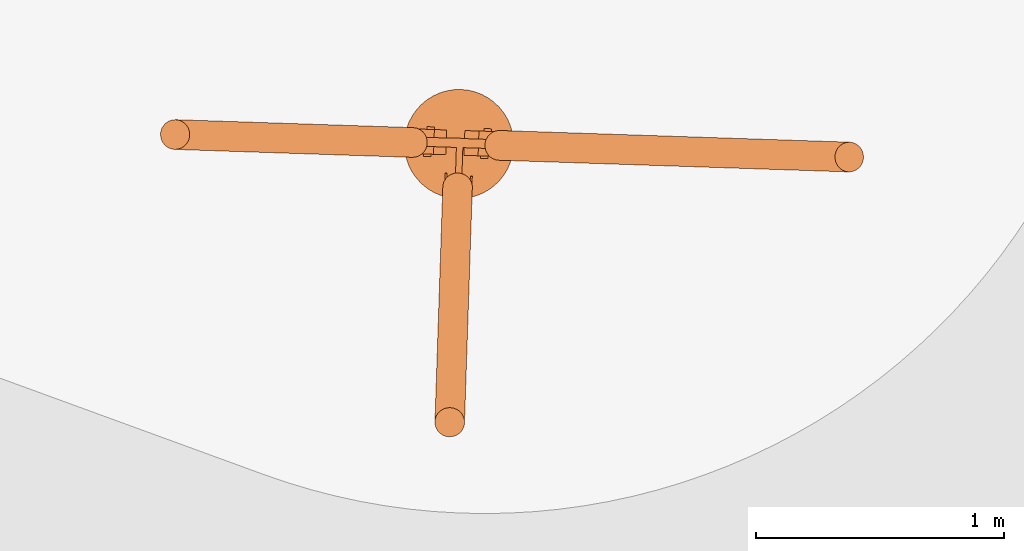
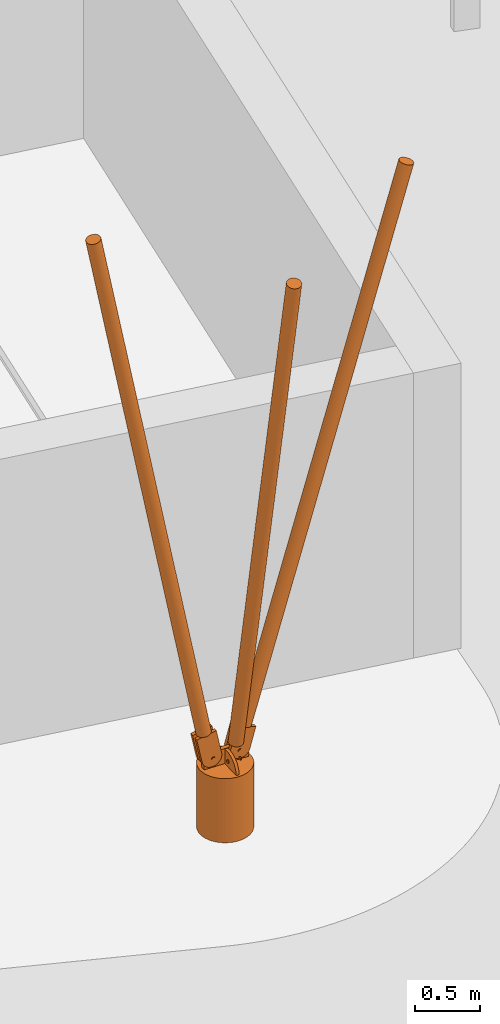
# One storey, part 20 of 21: 1 proxy.
"""IFC2X3 building model written with IfcOpenShell, lengths in millimetres."""

from ifc_helpers import new_model, entity, si_unit, converted_unit, derived_unit, direction, frame, frame_2d, origin, origin_2d_with_axis, place, context, subcontext, project, spatial, polyline, circle_curve, parameter, trimmed, segment, composite_curve, circle, outline, extrude, source, transform, mapped, material, material_list, type_object, type_shapes, element, save


model = new_model("IFC2X3")

# Units and contexts
model_context = context("Model", 3, precision=0.01, world=origin(), true_north=direction((6.12303176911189e-17, 1.0)))
body_context = subcontext(model_context, "Body", "Model", "MODEL_VIEW")
ifc_project = project(units=[si_unit("LENGTHUNIT", "METRE", prefix="MILLI"), si_unit("AREAUNIT", "SQUARE_METRE"), si_unit("VOLUMEUNIT", "CUBIC_METRE"), converted_unit("PLANEANGLEUNIT", "DEGREE", entity("IfcRatioMeasure", 0.0174532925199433), si_unit("PLANEANGLEUNIT", "RADIAN"), dimensions=[0, 0, 0, 0, 0, 0, 0]), si_unit("MASSUNIT", "GRAM", prefix="KILO"), derived_unit("MASSDENSITYUNIT", [(si_unit("MASSUNIT", "GRAM", prefix="KILO"), 1), (si_unit("LENGTHUNIT", "METRE"), -3)]), derived_unit("MOMENTOFINERTIAUNIT", [(si_unit("LENGTHUNIT", "METRE"), 4)]), si_unit("TIMEUNIT", "SECOND"), si_unit("FREQUENCYUNIT", "HERTZ"), si_unit("THERMODYNAMICTEMPERATUREUNIT", "DEGREE_CELSIUS"), derived_unit("THERMALTRANSMITTANCEUNIT", [(si_unit("MASSUNIT", "GRAM", prefix="KILO"), 1), (si_unit("THERMODYNAMICTEMPERATUREUNIT", "KELVIN"), -1), (si_unit("TIMEUNIT", "SECOND"), -3)]), derived_unit("VOLUMETRICFLOWRATEUNIT", [(si_unit("LENGTHUNIT", "METRE"), 3), (si_unit("TIMEUNIT", "SECOND"), -1)]), si_unit("ELECTRICCURRENTUNIT", "AMPERE"), si_unit("ELECTRICVOLTAGEUNIT", "VOLT"), si_unit("POWERUNIT", "WATT"), si_unit("FORCEUNIT", "NEWTON", prefix="KILO"), si_unit("ILLUMINANCEUNIT", "LUX"), si_unit("LUMINOUSFLUXUNIT", "LUMEN"), si_unit("LUMINOUSINTENSITYUNIT", "CANDELA"), derived_unit("USERDEFINED", [(si_unit("MASSUNIT", "GRAM", prefix="KILO"), -1), (si_unit("LENGTHUNIT", "METRE"), -2), (si_unit("TIMEUNIT", "SECOND"), 3), (si_unit("LUMINOUSFLUXUNIT", "LUMEN"), 1)]), derived_unit("LINEARVELOCITYUNIT", [(si_unit("LENGTHUNIT", "METRE"), 1), (si_unit("TIMEUNIT", "SECOND"), -1)]), si_unit("PRESSUREUNIT", "PASCAL"), derived_unit("USERDEFINED", [(si_unit("LENGTHUNIT", "METRE"), -2), (si_unit("MASSUNIT", "GRAM", prefix="KILO"), 1), (si_unit("TIMEUNIT", "SECOND"), -2)]), derived_unit("LINEARFORCEUNIT", [(si_unit("MASSUNIT", "GRAM", prefix="KILO"), 1), (si_unit("LENGTHUNIT", "METRE"), 1), (si_unit("TIMEUNIT", "SECOND"), -2), (si_unit("LENGTHUNIT", "METRE"), -1)]), derived_unit("PLANARFORCEUNIT", [(si_unit("MASSUNIT", "GRAM", prefix="KILO"), 1), (si_unit("LENGTHUNIT", "METRE"), 1), (si_unit("TIMEUNIT", "SECOND"), -2), (si_unit("LENGTHUNIT", "METRE"), -2)])], contexts=[model_context])

# Site, building, storey
site_placement = place(None, origin())
site = spatial("IfcSite", under=ifc_project, at=site_placement, Name="<Kadaster Gemeente>;<Kadaster nummer>;<Kadaster sectie>", CompositionType="ELEMENT")
building_placement = place(site_placement, origin())
building = spatial("IfcBuilding", under=site, at=building_placement, Name="JRCZ Middelburg", CompositionType="ELEMENT")
storey_placement = place(building_placement, origin())
storey = spatial("IfcBuildingStorey", under=building, at=storey_placement, Name="00 begane grond", CompositionType="ELEMENT", Elevation=0.0)

# Proxy
ifc_material_1 = material(Name="Staal")
ifc_material_2 = material(Name="Beton")
ifc_material_list = material_list([ifc_material_1, ifc_material_1, ifc_material_1, ifc_material_1, ifc_material_1, ifc_material_1, ifc_material_1, ifc_material_1, ifc_material_1, ifc_material_1, ifc_material_1, ifc_material_1, ifc_material_1, ifc_material_1, ifc_material_1, ifc_material_2, ifc_material_1, ifc_material_1])
building_element_proxy_type = type_object("IfcBuildingElementProxyType", Name="Kolommen:Kolommen", PredefinedType="NOTDEFINED", material=ifc_material_1)
shared_shape = source(origin(), body_context, "Body", "SweptSolid", [
    extrude(outline(composite_curve([segment(polyline([(-77.5219151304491, -100.362729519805), (77.5725642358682, -100.362729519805)]), True, "CONTINUOUS"), segment(polyline([(77.5725642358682, -100.362729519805), (77.5725642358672, 99.0100214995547)]), True, "CONTINUOUS"), segment(trimmed(circle_curve(frame_2d((-0.0489361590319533, 99.0100214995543), x_axis=(-0.981627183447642, -0.190808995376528)), 77.5202021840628), [parameter(169.000000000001)], [parameter(346.999999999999)], True, "PARAMETER"), True, "CONTINUOUS"), segment(polyline([(-77.5219151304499, 101.715437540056), (-77.5219151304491, -100.362729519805)]), True, "CONTINUOUS")], self_intersect=False)), frame((-157.047506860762, -50.0, 804.451228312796), z_axis=(0.0, 1.0, 0.0), x_axis=(0.981627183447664, 0.0, 0.190808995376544)), (0.0, 0.0, 1.0), 33.9987515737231),
    extrude(circle(Radius=15.0, at=origin_2d_with_axis()), frame((-54.4696170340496, -103.594118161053, 706.16949538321), z_axis=(1.0, 0.0, 0.0), x_axis=(0.0, -1.0, 0.0)), (0.0, 0.0, 1.0), 9.59587154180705),
    extrude(circle(Radius=15.0, at=origin_2d_with_axis()), frame((-54.4696170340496, 126.405881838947, 706.169495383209), z_axis=(1.0, 0.0, 0.0), x_axis=(0.0, -1.0, 0.0)), (0.0, 0.0, 1.0), 9.59587154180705),
    extrude(circle(Radius=15.0, at=origin_2d_with_axis()), frame((55.0, -113.800552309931, 720.960203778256), z_axis=(1.0, 0.0, 0.0), x_axis=(0.0, -1.0, 0.0)), (0.0, 0.0, 1.0), 10.668628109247),
    extrude(circle(Radius=15.0, at=origin_2d_with_axis()), frame((55.0, 116.199447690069, 720.960203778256), z_axis=(1.0, 0.0, 0.0), x_axis=(0.0, -1.0, 0.0)), (0.0, 0.0, 1.0), 10.668628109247),
    extrude(outline(composite_curve([segment(polyline([(-103.664111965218, -86.2493471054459), (105.169599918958, -86.2493471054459)]), True, "CONTINUOUS"), segment(polyline([(105.169599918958, -86.2493471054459), (102.158624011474, 86.2493471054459)]), True, "CONTINUOUS"), segment(polyline([(102.158624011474, 86.2493471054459), (-103.664111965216, 86.2493471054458)]), True, "CONTINUOUS"), segment(trimmed(circle_curve(frame_2d((-95.2770692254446, 0.0), x_axis=(-0.207911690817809, 0.978147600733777)), 86.6561732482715), [parameter(353.554082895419)], [parameter(162.445917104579)], True, "PARAMETER"), True, "CONTINUOUS")], self_intersect=False)), frame((22.5362302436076, -133.676471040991, 807.841665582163), z_axis=(1.0, 0.0, 0.0), x_axis=(0.0, -0.266523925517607, 0.963828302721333)), (0.0, 0.0, 1.0), 32.4637697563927),
    extrude(outline(composite_curve([segment(polyline([(-118.666408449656, -86.2493471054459), (120.171896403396, -86.249347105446)]), True, "CONTINUOUS"), segment(polyline([(120.171896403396, -86.249347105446), (117.160920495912, 86.2493471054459)]), True, "CONTINUOUS"), segment(polyline([(117.160920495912, 86.2493471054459), (-118.666408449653, 86.2493471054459)]), True, "CONTINUOUS"), segment(trimmed(circle_curve(frame_2d((-110.279365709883, 0.0), x_axis=(-0.207911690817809, 0.978147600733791)), 86.6561732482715), [parameter(353.554082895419)], [parameter(162.445917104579)], True, "PARAMETER"), True, "CONTINUOUS")], self_intersect=False)), frame((22.5362302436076, 161.188523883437, 824.784514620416), z_axis=(1.0, 0.0, 0.0), x_axis=(0.0, 0.207911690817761, 0.978147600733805)), (0.0, 0.0, 1.0), 32.4637697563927),
    extrude(outline(composite_curve([segment(polyline([(-103.671089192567, -86.2493471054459), (105.176577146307, -86.2493471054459)]), True, "CONTINUOUS"), segment(polyline([(105.176577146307, -86.2493471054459), (102.165601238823, 86.2493471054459)]), True, "CONTINUOUS"), segment(polyline([(102.165601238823, 86.2493471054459), (-103.671089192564, 86.249347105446)]), True, "CONTINUOUS"), segment(trimmed(circle_curve(frame_2d((-95.2840464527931, 0.0), x_axis=(-0.207911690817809, 0.978147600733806)), 86.6561732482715), [parameter(353.554082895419)], [parameter(162.445917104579)], True, "PARAMETER"), True, "CONTINUOUS")], self_intersect=False)), frame((-44.8737454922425, -133.678330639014, 807.848390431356), z_axis=(1.0, 0.0, 0.0), x_axis=(0.0, -0.266523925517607, 0.963828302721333)), (0.0, 0.0, 1.0), 30.7614069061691),
    extrude(outline(composite_curve([segment(polyline([(-118.666408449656, -86.2493471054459), (120.171896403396, -86.249347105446)]), True, "CONTINUOUS"), segment(polyline([(120.171896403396, -86.249347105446), (117.160920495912, 86.2493471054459)]), True, "CONTINUOUS"), segment(polyline([(117.160920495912, 86.2493471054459), (-118.666408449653, 86.2493471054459)]), True, "CONTINUOUS"), segment(trimmed(circle_curve(frame_2d((-110.279365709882, 0.0), x_axis=(-0.207911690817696, 0.97814760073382)), 86.6561732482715), [parameter(353.554082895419)], [parameter(162.445917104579)], True, "PARAMETER"), True, "CONTINUOUS")], self_intersect=False)), frame((-44.8737454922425, 161.188523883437, 824.784514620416), z_axis=(1.0, 0.0, 0.0), x_axis=(0.0, 0.207911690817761, 0.978147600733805)), (0.0, 0.0, 1.0), 30.7614069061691),
    extrude(outline(composite_curve([segment(trimmed(circle_curve(frame_2d((-81.8584253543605, 43.7085069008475), x_axis=(1.0, 0.0)), 113.708506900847), [parameter(166.631188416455)], [parameter(270.0)], True, "PARAMETER"), True, "CONTINUOUS"), segment(polyline([(-81.8584253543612, -70.0), (81.8584253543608, -70.0)]), True, "CONTINUOUS"), segment(trimmed(circle_curve(frame_2d((81.8584253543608, 43.7085069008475), x_axis=(-1.0, 0.0)), 113.708506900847), [parameter(90.0000000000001)], [parameter(193.368811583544)], True, "PARAMETER"), True, "CONTINUOUS"), segment(polyline([(192.485645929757, 70.0), (-192.485645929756, 70.0)]), True, "CONTINUOUS")], self_intersect=False)), frame((-14.1123385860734, -2.97583321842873, 670.0), z_axis=(1.0, 0.0, 0.0), x_axis=(0.0, -1.0, 0.0)), (0.0, 0.0, 1.0), 37.5362302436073),
    extrude(circle(Radius=60.0, at=frame_2d((8.626698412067e-16, -2.59703140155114e-13), x_axis=(1.0, 0.0))), frame((0.0, -1573.6753433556, 5704.13014853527), z_axis=(0.0, 0.28233207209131, -0.959316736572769), x_axis=(1.0, 0.0, 0.0)), (0.0, 0.0, 1.0), 5000.0),
    extrude(circle(Radius=15.0, at=frame_2d((0.0, -1.35358391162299e-13), x_axis=(1.0, 0.0))), frame((-142.876062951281, -57.9256867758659, 707.681947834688), z_axis=(0.0, 1.0, 0.0), x_axis=(1.0, 0.0, 0.0)), (0.0, 0.0, 1.0), 7.92568677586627),
    extrude(circle(Radius=15.0, at=frame_2d((0.0, -1.35358391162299e-13), x_axis=(1.0, 0.0))), frame((-134.21100297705, 43.8026833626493, 705.345812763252), z_axis=(0.0, 1.0, 0.0), x_axis=(1.0, 0.0, 0.0)), (0.0, 0.0, 1.0), 7.92568677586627),
    extrude(outline(composite_curve([segment(polyline([(-77.5219151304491, -100.362729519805), (77.5725642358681, -100.362729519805)]), True, "CONTINUOUS"), segment(polyline([(77.5725642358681, -100.362729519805), (77.5725642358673, 99.0100214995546)]), True, "CONTINUOUS"), segment(trimmed(circle_curve(frame_2d((-0.0489361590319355, 99.0100214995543), x_axis=(-0.981627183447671, -0.190808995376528)), 77.5202021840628), [parameter(169.000000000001)], [parameter(346.999999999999)], True, "PARAMETER"), True, "CONTINUOUS"), segment(polyline([(-77.5219151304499, 101.715437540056), (-77.5219151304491, -100.362729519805)]), True, "CONTINUOUS")], self_intersect=False)), frame((-157.047506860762, 10.0495819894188, 804.451228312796), z_axis=(0.0, 1.0, 0.0), x_axis=(0.981627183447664, 0.0, 0.190808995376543)), (0.0, 0.0, 1.0), 33.7531013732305),
    extrude(outline(composite_curve([segment(trimmed(circle_curve(frame_2d((12.6830837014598, 71.963066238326), x_axis=(1.0, 0.0)), 139.999999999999), [parameter(181.607002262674)], [parameter(270.0)], True, "PARAMETER"), True, "CONTINUOUS"), segment(polyline([(12.6830837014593, -68.0369337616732), (57.2893849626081, -68.0369337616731)]), True, "CONTINUOUS"), segment(polyline([(57.2893849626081, -68.0369337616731), (57.2893849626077, 68.0369337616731)]), True, "CONTINUOUS"), segment(polyline([(57.2893849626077, 68.0369337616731), (-127.261853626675, 68.0369337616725)]), True, "CONTINUOUS")], self_intersect=False)), frame((-71.4017235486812, -16.0012484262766, 668.036933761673), z_axis=(0.0, 1.0, 0.0), x_axis=(1.0, 0.0, 0.0)), (0.0, 0.0, 1.0), 26.0508304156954),
    extrude(circle(Radius=220.0, at=frame_2d((-1.58856450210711e-14, -3.55419806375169e-13), x_axis=(1.0, 0.0))), origin(), (0.0, 0.0, 1.0), 600.0),
    extrude(circle(Radius=60.0, at=frame_2d((6.01112009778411e-29, -2.32525083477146e-13), x_axis=(1.0, 0.0))), frame((0.0, 186.992815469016, 940.637708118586), z_axis=(0.0, 0.190808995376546, 0.981627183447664), x_axis=(1.0, 0.0, 0.0)), (0.0, 0.0, 1.0), 5020.0),
    extrude(circle(Radius=60.0, at=frame_2d((0.0, -7.62621173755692e-14), x_axis=(1.0, 0.0))), frame((-175.544275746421, 0.0, 903.097008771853), z_axis=(-0.190808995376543, 0.0, 0.981627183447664), x_axis=(0.981627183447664, 0.0, 0.190808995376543)), (0.0, 0.0, 1.0), 4960.0),
])
type_shapes(building_element_proxy_type, [shared_shape])
proxy_placement = place(storey_placement, frame((26390.9381280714, 4166.78652639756, 39.9994237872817), z_axis=(0.0, 0.0, 1.0), x_axis=(0.0333364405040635, 0.999444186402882, 0.0)))
element("IfcBuildingElementProxy", 1, at=proxy_placement, inside=storey, type_object=building_element_proxy_type, material=ifc_material_list, Name="Kolommen:Kolommen", ObjectType="Kolommen:Kolommen", context=body_context, shape_type="MappedRepresentation", body=[
    mapped(shared_shape, transform((0.0, 0.0, 0.0), scale=1.0)),
])

save(model, "model.ifc")
